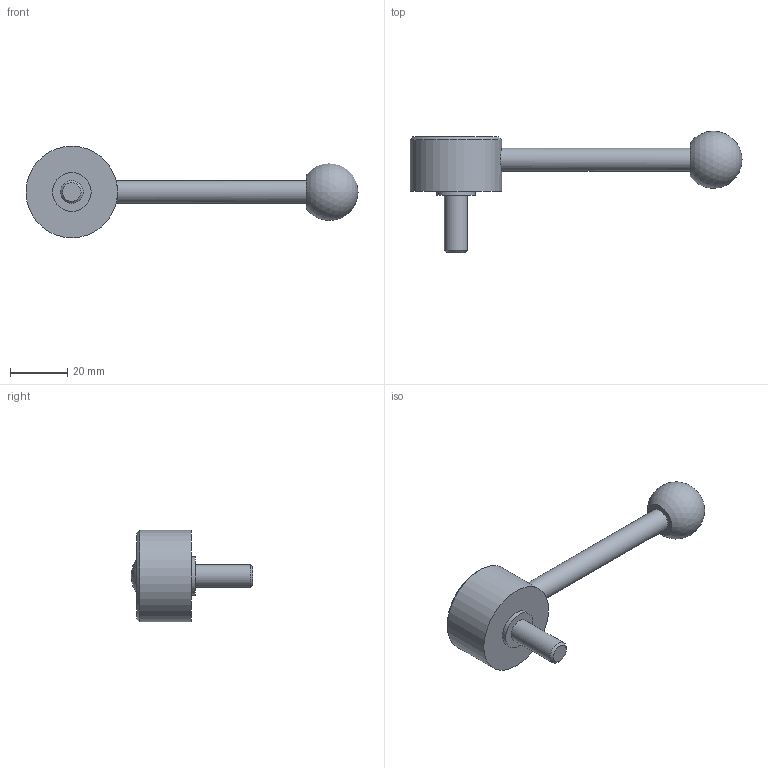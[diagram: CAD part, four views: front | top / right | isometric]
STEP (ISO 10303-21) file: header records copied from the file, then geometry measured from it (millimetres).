
FILE_DESCRIPTION( ( 'STEP AP203' ), '1' );
FILE_NAME( 'C:/Temp/Ganter_Step_05_03_2020/data/2_1/gn_125/gn_125_ms/gn_125_ms_d/Flat Adjustable Lever GN 125-32-M8-20-D.stp', '2020-03-05T11:00:44', ( 'License CC BY-ND 4.0' ), ( 'CADENAS' ), ' ', 'PARTsolutions', ' ' );
FILE_SCHEMA( ( 'CONFIG_CONTROL_DESIGN' ) );
Length unit declared in the file: millimetre
Products named in the file (1): _Flat Adjustable Lever GN 125-32-M8-20-D
Bounding box: 116 x 42.43 x 32 mm (x, y, z)
Volume: 23745 mm3; surface area: 6838.2 mm2
Topology: 1 solids, 1 shells, 14 faces, 23 edges, 15 vertices
Faces by surface type: plane 6, cylinder 5, cone 2, sphere 1
Full cylindrical faces by diameter (mm): 8 x2, 13.5 x1, 22 x1, 32 x1
Entity records: 384 total; most frequent: CARTESIAN_POINT 107, DIRECTION 54, AXIS2_PLACEMENT_3D 27, EDGE_LOOP 26, ORIENTED_EDGE 26, FACE_OUTER_BOUND 19, ADVANCED_FACE 14, VERTEX_POINT 14
